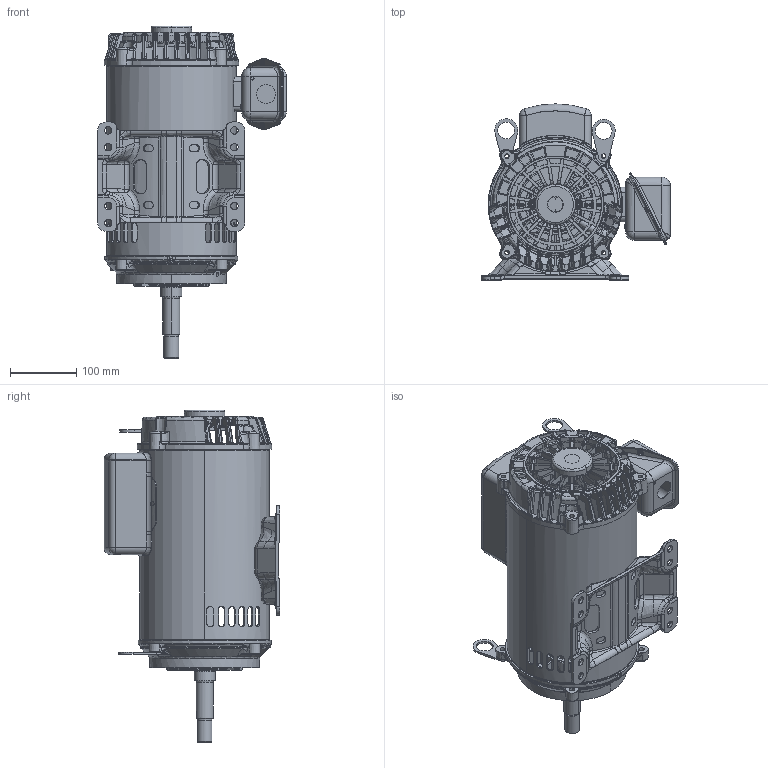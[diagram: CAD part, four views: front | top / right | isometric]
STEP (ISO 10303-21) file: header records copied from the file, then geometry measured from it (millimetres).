
FILE_DESCRIPTION((''),'2;1');
FILE_NAME('BB07_ASM','2014-07-21T',('NMC779F'),('Nidec Motor Corporation'),'PRO/ENGINEER BY PARAMETRIC TECHNOLOGY CORPORATION, 2013150','PRO/ENGINEER BY PARAMETRIC TECHNOLOGY CORPORATION, 2013150','');
FILE_SCHEMA(('CONFIG_CONTROL_DESIGN'));
Length unit declared in the file: inch
Products named in the file (16): 184_D_FRAME; 0394129-BKT_AF0; 0384386_AF0; 0384805_ASM; 0380228; 0380775-BKT_AF0; 0360286_AF0; 0380776_ASM; 0651822; 0362988; 0390418; 0390928; 0390417; 0382609; 0904779-001; BB07_ASM
Assembly tree (16 placements, depth 3):
  BB07_ASM
    184_D_FRAME
    0384805_ASM
      0394129-BKT_AF0
      0384386_AF0
    0380228
    0380776_ASM
      0380775-BKT_AF0
      0360286_AF0
    0651822
    0362988  x2
    0390418
    0390928
    0390417
    0382609
    0904779-001
Bounding box: 284.63 x 265.64 x 501.15 mm (x, y, z)
Volume: 1737257.4 mm3; surface area: 982607.2 mm2
Topology: 16 solids, 16 shells, 3016 faces, 7776 edges, 4755 vertices
Faces by surface type: bspline 1120, plane 564, cylinder 515, cone 393, torus 340, sphere 84
Entity records: 133861 total; most frequent: CARTESIAN_POINT 69378, ORIENTED_EDGE 15478, DIRECTION 10879, EDGE_CURVE 7739, VERTEX_POINT 4739, AXIS2_PLACEMENT_3D 4638, B_SPLINE_CURVE_WITH_KNOTS 3420, EDGE_LOOP 3202
